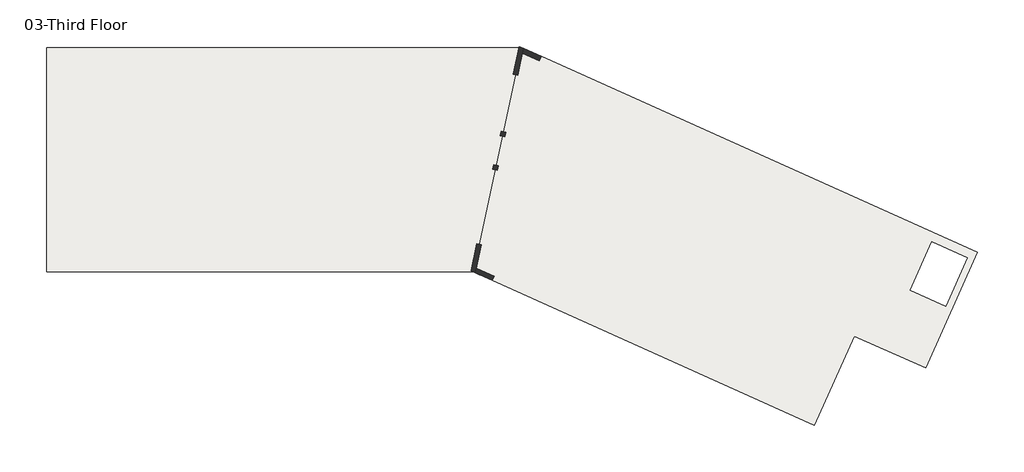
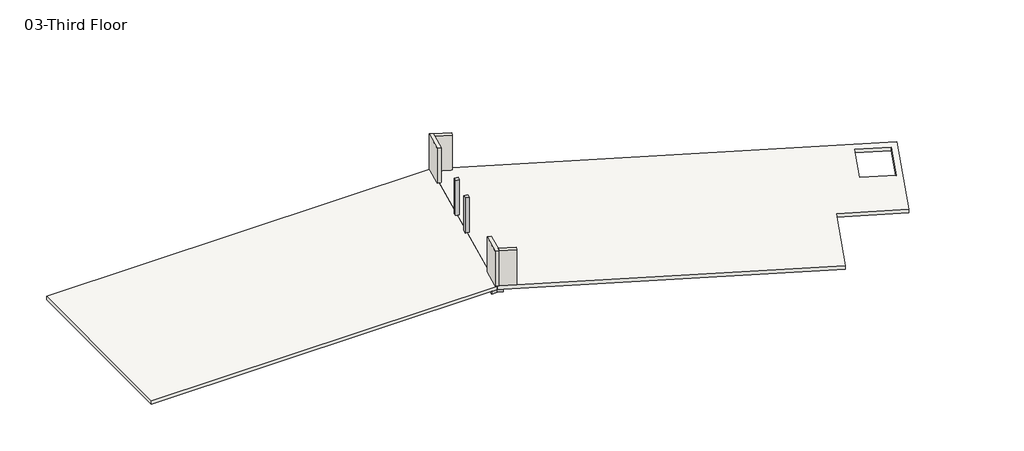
# One storey: 4 walls, 3 beams, 2 columns, 2 slabs.
"""IFC4 building model written with IfcOpenShell, lengths in millimetres."""

import ifcopenshell
import ifcopenshell.guid

model = None  # the IFC model being written
_history = None  # IfcOwnerHistory: only IFC2X3 demands one
_inside = {}  # id of a spatial element -> (the spatial element, [elements in it])
_under = {}  # id of a project, library or spatial element -> (it, [spatial elements below it])
_declared = {}  # id of a project -> (the project, [libraries it declares])
_typed = {}  # id of a type object -> (the type object, [elements of that type])
_made_of = {}  # id of a material, layer set ... -> (it, [elements and type objects made of it])


def new_model(schema):
    """Start an empty IFC model of exactly this schema.

    Asked for "IFC4X3", IfcOpenShell would pick the latest addendum, in which some entities
    have other attributes; the version numbers below select the first issue.
    IFC2X3 requires an IfcOwnerHistory on every rooted entity: one is made here for all.
    """
    global model, _history
    if schema == "IFC4X3":
        model = ifcopenshell.file(schema_version=(4, 3, 0, 0))
    else:
        model = ifcopenshell.file(schema=schema)
    _inside.clear()
    _under.clear()
    _declared.clear()
    _typed.clear()
    _made_of.clear()
    _history = None
    if model.schema == "IFC2X3":
        org = make("IfcOrganization", Name="unknown")
        user = make(
            "IfcPersonAndOrganization",
            ThePerson=make("IfcPerson", FamilyName="unknown"),
            TheOrganization=org,
        )
        app = make(
            "IfcApplication",
            ApplicationDeveloper=org,
            Version="unknown",
            ApplicationFullName="unknown",
            ApplicationIdentifier="unknown",
        )
        _history = make(
            "IfcOwnerHistory",
            OwningUser=user,
            OwningApplication=app,
            ChangeAction="ADDED",
            CreationDate=0,
        )
    return model


def make(cls, **values):
    """One entity of the class cls with the attributes given. An attribute that is None is left unset."""
    return model.create_entity(
        cls, **{name: value for name, value in values.items() if value is not None}
    )


def rooted(cls, **values):
    """An entity with a GlobalId (a new one), such as an element, a storey or a relation."""
    return make(cls, GlobalId=ifcopenshell.guid.new(), OwnerHistory=_history, **values)


def si_unit(unit_type, name, prefix=None):
    """IfcSIUnit, for example si_unit("LENGTHUNIT", "METRE", prefix="MILLI")."""
    return make("IfcSIUnit", UnitType=unit_type, Prefix=prefix, Name=name)


def assignment(units):
    """IfcUnitAssignment: the units of a project."""
    return None if units is None else make("IfcUnitAssignment", Units=units)


def point(xyz):
    """IfcCartesianPoint."""
    return None if xyz is None else make("IfcCartesianPoint", Coordinates=xyz)


def direction(xyz):
    """IfcDirection."""
    return None if xyz is None else make("IfcDirection", DirectionRatios=xyz)


def frame(location, z_axis=None, x_axis=None):
    """IfcAxis2Placement3D, a coordinate frame: its origin and axes. An axis left out is left unset."""
    return make(
        "IfcAxis2Placement3D",
        Location=point(location),
        Axis=direction(z_axis),
        RefDirection=direction(x_axis),
    )


def origin():
    """The frame at (0, 0, 0) with its axes left unset."""
    return frame((0.0, 0.0, 0.0))


def place(relative_to, where):
    """IfcLocalPlacement: puts the frame where relative to a parent placement (None: the world)."""
    return make(
        "IfcLocalPlacement", PlacementRelTo=relative_to, RelativePlacement=where
    )


def context(
    kind, dimensions, precision=None, world=None, true_north=None, identifier=None
):
    """IfcGeometricRepresentationContext, for example the 3D "Model" context."""
    return make(
        "IfcGeometricRepresentationContext",
        ContextIdentifier=identifier,
        ContextType=kind,
        CoordinateSpaceDimension=dimensions,
        Precision=precision,
        WorldCoordinateSystem=world,
        TrueNorth=true_north,
    )


def project(units=None, contexts=None):
    """IfcProject with its units and contexts."""
    return rooted(
        "IfcProject",
        Name="project",
        RepresentationContexts=contexts,
        UnitsInContext=assignment(units),
    )


def spatial(cls, under=None, at=None, **own):
    """A site, building, storey or space (cls), placed at a placement, below another one or the project."""
    s = rooted(cls, ObjectPlacement=at, **own)
    if under is not None:
        _under.setdefault(under.id(), (under, []))[1].append(s)
    return s


def polyline(points):
    """IfcPolyline through the points."""
    return make("IfcPolyline", Points=[point(p) for p in points])


def outline(outer, holes=None, kind="AREA"):
    """IfcArbitraryClosedProfileDef: a profile drawn as a closed curve; with holes, ...WithVoids."""
    if holes is None:
        return make("IfcArbitraryClosedProfileDef", ProfileType=kind, OuterCurve=outer)
    return make(
        "IfcArbitraryProfileDefWithVoids",
        ProfileType=kind,
        OuterCurve=outer,
        InnerCurves=holes,
    )


def extrude(swept, where, along, depth):
    """IfcExtrudedAreaSolid: the profile swept, set in the frame where, extruded along a direction by depth."""
    return make(
        "IfcExtrudedAreaSolid",
        SweptArea=swept,
        Position=where,
        ExtrudedDirection=direction(along),
        Depth=depth,
    )


def faces_of(points, faces, orient=None, outer=None):
    """IfcFace entities. A face is a list of loops; a loop is a list of indices into points, from 0.

    orient and outer hold one flag for each loop. By default every Orientation is true, the
    first loop of a face is its IfcFaceOuterBound and the others are IfcFaceBound.
    """
    made = []
    for i, loops in enumerate(faces):
        bounds = []
        for j, loop in enumerate(loops):
            is_outer = j == 0 if outer is None else outer[i][j]
            bounds.append(
                make(
                    "IfcFaceOuterBound" if is_outer else "IfcFaceBound",
                    Bound=make("IfcPolyLoop", Polygon=[points[k] for k in loop]),
                    Orientation=True if orient is None else orient[i][j],
                )
            )
        made.append(make("IfcFace", Bounds=bounds))
    return made


def faceted_brep(points, faces, orient=None, outer=None, voids=None):
    """IfcFacetedBrep: a solid bounded by flat faces; with voids (closed shells), ...WithVoids."""
    shared = [point(p) for p in points]
    hull = make("IfcClosedShell", CfsFaces=faces_of(shared, faces, orient, outer))
    if voids is None:
        return make("IfcFacetedBrep", Outer=hull)
    return make(
        "IfcFacetedBrepWithVoids",
        Outer=hull,
        Voids=[
            make(cls, CfsFaces=faces_of(shared, fs, o, b)) for cls, fs, o, b in voids
        ],
    )


def shape(context_of_items, identifier, shape_type, items):
    """IfcShapeRepresentation: the items that make up one representation, for example the "Body"."""
    return make(
        "IfcShapeRepresentation",
        ContextOfItems=context_of_items,
        RepresentationIdentifier=identifier,
        RepresentationType=shape_type,
        Items=items,
    )


def made_of(thing, what):
    """Note that an element or type object is made of a material, layer set ...; save() writes the relation."""
    if what is not None:
        _made_of.setdefault(what.id(), (what, []))[1].append(thing)
    return thing


def element(
    cls,
    number,
    at=None,
    inside=None,
    cuts=None,
    type_object=None,
    material=None,
    context=None,
    identifier="Body",
    shape_type=None,
    held_by="IfcProductDefinitionShape",
    body=None,
    shapes=None,
    **own,
):
    """One element of the class cls, such as IfcWall. Its Tag is "e" and its number.

    at: its placement. inside: the storey or other place that contains it. cuts: it is an
    opening in that element (IfcRelVoidsElement). A single representation is given by context,
    identifier, shape_type and body (its items); several are given by shapes. held_by: the class
    of the entity that holds the representations. save() writes the other relations.
    """
    e = rooted(cls, Tag="e%d" % number, ObjectPlacement=at, **own)
    if body is not None:
        shapes = [shape(context, identifier, shape_type, body)]
    if shapes is not None:
        e.Representation = make(held_by, Representations=shapes)
    if inside is not None:
        _inside.setdefault(inside.id(), (inside, []))[1].append(e)
    if cuts is not None:
        rooted(
            "IfcRelVoidsElement", RelatingBuildingElement=cuts, RelatedOpeningElement=e
        )
    if type_object is not None:
        _typed.setdefault(type_object.id(), (type_object, []))[1].append(e)
    return made_of(e, material)


def aggregate(whole, parts):
    """IfcRelAggregates: a whole, such as a stair, and the parts it consists of."""
    return rooted("IfcRelAggregates", RelatingObject=whole, RelatedObjects=parts)


def save(model, path):
    """Write the relations noted so far, then the file.

    IfcRelAggregates (storeys below a building ...), IfcRelContainedInSpatialStructure (elements
    in a storey), IfcRelDefinesByType, IfcRelAssociatesMaterial and IfcRelDeclares: one each for
    every whole, place, type object, material and project.
    """
    for whole, parts in _under.values():
        aggregate(whole, parts)
    for where, things in _inside.values():
        rooted(
            "IfcRelContainedInSpatialStructure",
            RelatedElements=things,
            RelatingStructure=where,
        )
    for kind, things in _typed.values():
        rooted("IfcRelDefinesByType", RelatedObjects=things, RelatingType=kind)
    for what, things in _made_of.values():
        rooted("IfcRelAssociatesMaterial", RelatedObjects=things, RelatingMaterial=what)
    for by, libraries in _declared.values():
        rooted("IfcRelDeclares", RelatingContext=by, RelatedDefinitions=libraries)
    model.write(path)


model = new_model("IFC4")

# Units and contexts
model_context = context("Model", 3, world=origin())
ifc_project = project(units=[si_unit("LENGTHUNIT", "METRE", prefix="MILLI")], contexts=[model_context])

# Site, building, storey
site = spatial("IfcSite", under=ifc_project)
building = spatial("IfcBuilding", under=site)
storey = spatial("IfcBuildingStorey", under=building, Name="03-Third Floor", Elevation=10058.4)

# Beams
placement = place(None, origin())
element("IfcBeam", 1, ObjectType="Concrete-Rectangular Beam : 33\" x 18\"", at=placement, inside=storey, context=model_context, shape_type="SweptSolid", body=[
    extrude(outline(polyline([(30288.1466789, -5386.3746605), (29418.8803327, -5200.1033006), (30631.1596114, 457.2), (31098.7387393, 457.2), (31501.5663945, 276.250679), (30288.1466789, -5386.3746605)])), frame((0.0, 0.0, 9525.0), z_axis=(0.0, 0.0, 1.0), x_axis=(1.0, 0.0, 0.0)), (0.0, 0.0, 1.0), 228.6),
])
element("IfcBeam", 2, ObjectType="Concrete-Rectangular Beam : 33\" x 18\"", at=placement, inside=storey, context=model_context, shape_type="SweptSolid", body=[
    extrude(outline(polyline([(28946.1350665, -7406.2478765), (29418.8803327, -5200.1033006), (30288.1466789, -5386.3746605), (29815.4014126, -7592.5192364), (28946.1350665, -7406.2478765)])), frame((0.0, 0.0, 9525.0), z_axis=(0.0, 0.0, 1.0), x_axis=(1.0, 0.0, 0.0)), (0.0, 0.0, 1.0), 228.6),
])
element("IfcBeam", 3, ObjectType="Concrete-Rectangular Beam : 33\" x 18\"", at=placement, inside=storey, context=model_context, shape_type="SweptSolid", body=[
    extrude(outline(polyline([(28946.1350665, -7406.2478765), (29815.4014126, -7592.5192364), (28306.6092516, -14633.549321), (27903.7815965, -14452.6), (27436.2024686, -14452.6), (28946.1350665, -7406.2478765)])), frame((0.0, 0.0, 9525.0), z_axis=(0.0, 0.0, 1.0), x_axis=(1.0, 0.0, 0.0)), (0.0, 0.0, 1.0), 228.6),
])

# Columns
element("IfcColumn", 4, ObjectType="Concrete-Rectangular-Column : 12 x 12", at=placement, inside=storey, context=model_context, shape_type="SweptSolid", body=[
    extrude(outline(polyline([(29275.3181702, -7324.750679), (29573.3523461, -7388.6151452), (29509.4878798, -7686.649321), (29211.453704, -7622.7848548), (29275.3181702, -7324.750679)])), frame((0.0, 0.0, 10058.4), z_axis=(0.0, 0.0, 1.0), x_axis=(1.0, 0.0, 0.0)), (0.0, 0.0, 1.0), 3048.0),
])
element("IfcColumn", 5, ObjectType="Concrete-Rectangular-Column : 12 x 12", at=placement, inside=storey, context=model_context, shape_type="SweptSolid", body=[
    extrude(outline(polyline([(29748.8467417, -5114.950679), (30046.8809175, -5178.8151452), (29983.0164512, -5476.849321), (29684.9822754, -5412.9848548), (29748.8467417, -5114.950679)])), frame((0.0, 0.0, 10058.4), z_axis=(0.0, 0.0, 1.0), x_axis=(1.0, 0.0, 0.0)), (0.0, 0.0, 1.0), 3048.0),
])

# Slabs
element("IfcSlab", 6, ObjectType="RC Slab 12\"", at=placement, inside=storey, context=model_context, shape_type="Brep", body=[
    faceted_brep([(-457.2, 457.2, 9753.6), (30631.1596114, 457.2, 9753.6), (31098.7387393, 457.2, 9753.6), (27903.7815965, -14452.6, 9753.6), (27436.2024686, -14452.6, 9753.6), (-457.2, -14452.6, 9753.6), (31098.7387393, 457.2, 10058.4), (-457.2, 457.2, 10058.4), (-457.2, -14452.6, 10058.4), (27903.7815965, -14452.6, 10058.4)], [[[0, 1, 2, 3, 4, 5]], [[6, 7, 8, 9]], [[2, 1, 0, 7, 6]], [[3, 2, 6, 9]], [[5, 4, 3, 9, 8]], [[0, 5, 8, 7]]]),
])
element("IfcSlab", 7, ObjectType="RC Slab 12\"", at=placement, inside=storey, context=model_context, shape_type="Brep", body=[
    faceted_brep([(61413.0546278, -13159.9258537, 9753.6), (57962.8673107, -20840.7, 9753.6), (53236.2370668, -18717.5078049, 9753.6), (50577.0429205, -24637.3804878, 9753.6), (28306.6092516, -14633.549321, 9753.6), (27903.7815965, -14452.6, 9753.6), (31098.7387393, 457.2, 9753.6), (31501.5663945, 276.250679, 9753.6), (59309.9346278, -16726.0858537, 9753.6), (60746.211701, -13528.6595122, 9753.6), (58382.896579, -12467.0634146, 9753.6), (56946.6195059, -15664.4897561, 9753.6), (57962.8673107, -20840.7, 10058.4), (61413.0546278, -13159.9258537, 10058.4), (32422.724802, -137.5317073, 10058.4), (31240.9132058, 393.3355338, 10058.4), (31098.7387393, 457.2, 10058.4), (27903.7815965, -14452.6, 10058.4), (28045.956063, -14516.4644662, 10058.4), (29168.1882864, -15020.5687805, 10058.4), (50577.0429205, -24637.3804878, 10058.4), (53236.2370668, -18717.5078049, 10058.4), (60746.211701, -13528.6595122, 10058.4), (59309.9346278, -16726.0858537, 10058.4), (56946.6195059, -15664.4897561, 10058.4), (58382.896579, -12467.0634146, 10058.4)], [[[0, 1, 2, 3, 4, 5, 6, 7], [8, 9, 10, 11]], [[12, 13, 14, 15, 16, 17, 18, 19, 20, 21], [22, 23, 24, 25]], [[1, 0, 13, 12]], [[2, 1, 12, 21]], [[3, 2, 21, 20]], [[5, 4, 3, 20, 19, 18, 17]], [[6, 5, 17, 16]], [[0, 7, 6, 16, 15, 14, 13]], [[8, 23, 22, 9]], [[9, 22, 25, 10]], [[10, 25, 24, 11]], [[23, 8, 11, 24]]]),
])

# Walls
element("IfcWall", 8, ObjectType="RC Wall 12\"", at=placement, inside=storey, context=model_context, shape_type="Brep", body=[
    faceted_brep([(30956.5642728, 521.0644662, 10058.4), (30564.3601247, -1309.221558, 10058.4), (30564.3601247, -1309.221558, 13106.4), (30956.5642728, 521.0644662, 13106.4), (30862.3943005, -1373.0860243, 10058.4), (31175.5989201, 88.5355338, 10058.4), (31240.9132058, 393.3355338, 10058.4), (31240.9132058, 393.3355338, 13106.4), (31175.5989201, 88.5355338, 13106.4), (30862.3943005, -1373.0860243, 13106.4), (31098.7387393, 457.2, 10058.4)], [[[0, 1, 2, 3]], [[4, 5, 6, 7, 8, 9]], [[1, 0, 10, 6, 5, 4]], [[1, 4, 9, 2]], [[6, 10, 0, 3, 7]], [[3, 2, 9, 8, 7]]]),
])
element("IfcWall", 9, ObjectType="RC Wall 12\"", at=placement, inside=storey, context=model_context, shape_type="SweptSolid", body=[
    extrude(outline(polyline([(32297.8311435, -415.5687805), (31175.5989201, 88.5355338), (31240.9132058, 393.3355338), (32422.724802, -137.5317073), (32297.8311435, -415.5687805)])), frame((0.0, 0.0, 10058.4), z_axis=(0.0, 0.0, 1.0), x_axis=(1.0, 0.0, 0.0)), (0.0, 0.0, 1.0), 3048.0),
])
element("IfcWall", 10, ObjectType="RC Wall 12\"", at=placement, inside=storey, context=model_context, shape_type="Brep", body=[
    faceted_brep([(28150.0697886, -12575.9097931, 10058.4), (27761.6071299, -14388.7355338, 10058.4), (27761.6071299, -14388.7355338, 13106.4), (28150.0697886, -12575.9097931, 13106.4), (28045.956063, -14516.4644662, 10058.4), (28111.2703487, -14211.6644662, 10058.4), (28448.1039645, -12639.7742594, 10058.4), (28448.1039645, -12639.7742594, 13106.4), (28111.2703487, -14211.6644662, 13106.4), (28045.956063, -14516.4644662, 13106.4), (27903.7815965, -14452.6, 10058.4)], [[[0, 1, 2, 3]], [[4, 5, 6, 7, 8, 9]], [[1, 0, 6, 5, 4, 10]], [[6, 0, 3, 7]], [[1, 10, 4, 9, 2]], [[3, 2, 9, 8, 7]]]),
])
element("IfcWall", 11, ObjectType="RC Wall 12\"", at=placement, inside=storey, context=model_context, shape_type="SweptSolid", body=[
    extrude(outline(polyline([(29168.1882864, -15020.5687805), (28045.956063, -14516.4644662), (28111.2703487, -14211.6644662), (29293.0819449, -14742.5317073), (29168.1882864, -15020.5687805)])), frame((0.0, 0.0, 10058.4), z_axis=(0.0, 0.0, 1.0), x_axis=(1.0, 0.0, 0.0)), (0.0, 0.0, 1.0), 3048.0),
])

save(model, "model.ifc")
